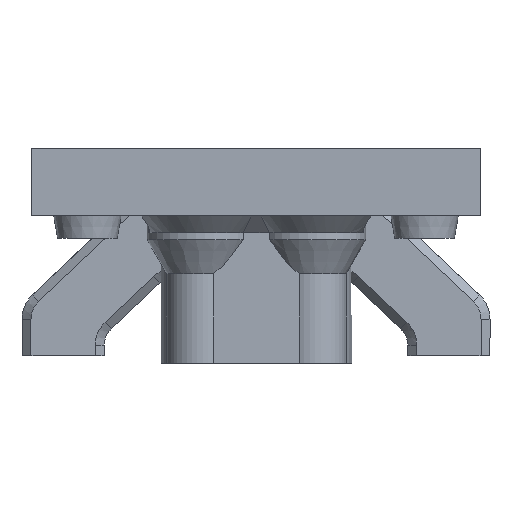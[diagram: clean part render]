
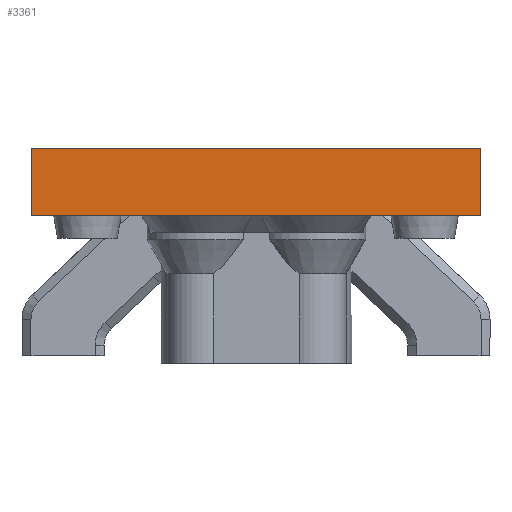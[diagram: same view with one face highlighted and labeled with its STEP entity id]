
A CAD part, front view. The second image highlights one B-rep face of the part: STEP entity #3361.
In plain terms, the highlighted planar face has unit normal (0, -1, 0).
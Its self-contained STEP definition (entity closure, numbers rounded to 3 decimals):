
#224=PLANE('',#3696);
#402=FACE_OUTER_BOUND('',#601,.T.);
#601=EDGE_LOOP('',(#3076,#3077,#3078,#3079));
#741=LINE('',#5091,#1057);
#924=LINE('',#5732,#1240);
#927=LINE('',#5737,#1243);
#928=LINE('',#5739,#1244);
#1057=VECTOR('',#4082,10.);
#1240=VECTOR('',#4661,10.);
#1243=VECTOR('',#4668,10.);
#1244=VECTOR('',#4671,10.);
#1515=VERTEX_POINT('',#5088);
#1516=VERTEX_POINT('',#5090);
#1689=VERTEX_POINT('',#5729);
#1690=VERTEX_POINT('',#5731);
#1877=EDGE_CURVE('',#1515,#1516,#741,.T.);
#2163=EDGE_CURVE('',#1690,#1689,#924,.T.);
#2166=EDGE_CURVE('',#1689,#1516,#927,.T.);
#2167=EDGE_CURVE('',#1690,#1515,#928,.T.);
#3076=ORIENTED_EDGE('',*,*,#2163,.T.);
#3077=ORIENTED_EDGE('',*,*,#2166,.T.);
#3078=ORIENTED_EDGE('',*,*,#1877,.F.);
#3079=ORIENTED_EDGE('',*,*,#2167,.F.);
#3361=ADVANCED_FACE('',(#402),#224,.T.);
#3696=AXIS2_PLACEMENT_3D('',#5738,#4669,#4670);
#4082=DIRECTION('',(1.,0.,0.));
#4661=DIRECTION('',(1.,0.,0.));
#4668=DIRECTION('',(0.,0.,1.));
#4669=DIRECTION('center_axis',(0.,-1.,0.));
#4670=DIRECTION('ref_axis',(1.,0.,0.));
#4671=DIRECTION('',(0.,0.,1.));
#5088=CARTESIAN_POINT('',(-40.,-42.533,42.875));
#5090=CARTESIAN_POINT('',(0.,-42.533,42.875));
#5091=CARTESIAN_POINT('',(-40.,-42.533,42.875));
#5729=CARTESIAN_POINT('',(0.,-42.533,36.875));
#5731=CARTESIAN_POINT('',(-40.,-42.533,36.875));
#5732=CARTESIAN_POINT('',(-40.,-42.533,36.875));
#5737=CARTESIAN_POINT('',(0.,-42.533,36.875));
#5738=CARTESIAN_POINT('Origin',(-40.,-42.533,36.875));
#5739=CARTESIAN_POINT('',(-40.,-42.533,36.875));
